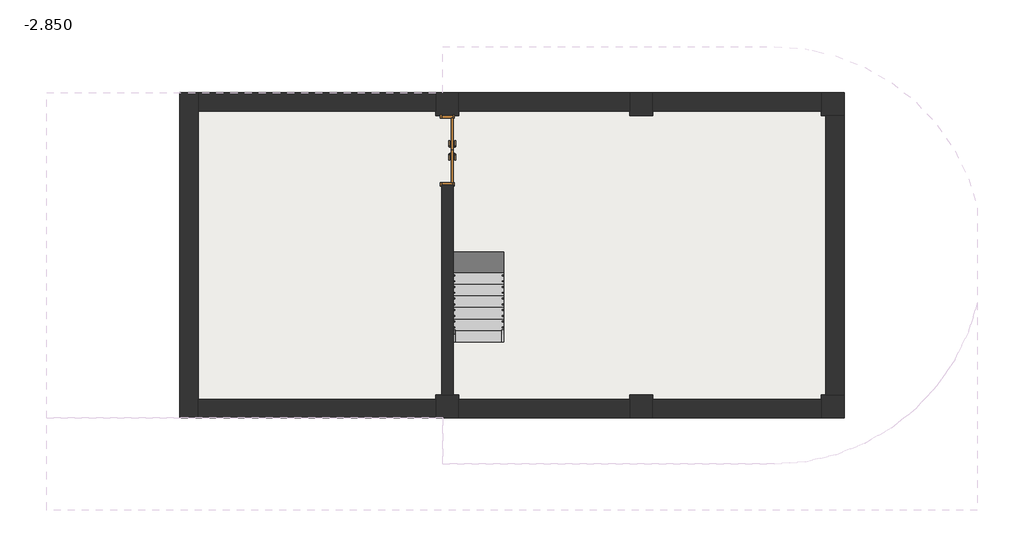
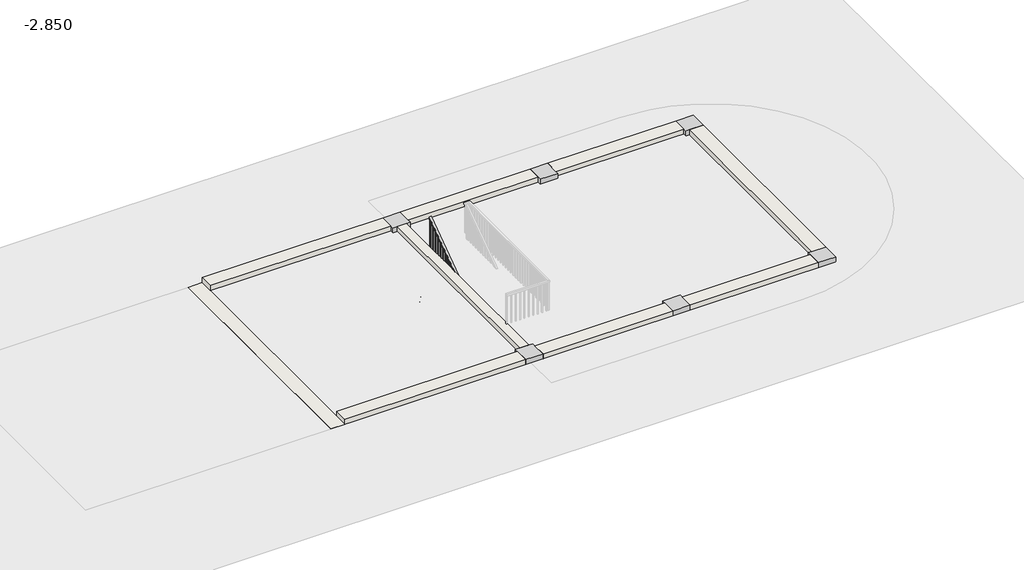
# One storey, part 1 of 2: 6 columns, 5 walls, 1 door, 1 railing, 1 slab, 1 stair flight.
"""IFC4 building model written with IfcOpenShell, lengths in millimetres."""

from ifc_helpers import new_model, si_unit, frame, origin, place, context, project, spatial, polyline, outline, extrude, faceted_brep, transform, mapped, element, save
from components import m1521_8034ee71

model = new_model("IFC4")

# Units and contexts
model_context = context("Model", 3, world=origin())
ifc_project = project(units=[si_unit("LENGTHUNIT", "METRE", prefix="MILLI")], contexts=[model_context])

# Site, building, storey
site = spatial("IfcSite", under=ifc_project)
building = spatial("IfcBuilding", under=site)
storey = spatial("IfcBuildingStorey", under=building, Name="-2.850", Elevation=-2850.0)

# Columns
placement = place(None, origin())
element("IfcColumn", 1, ObjectType="混凝土 - 正方形 - 柱 : 300 x 300mm", at=placement, inside=storey, context=model_context, shape_type="Brep", body=[
    faceted_brep([(-36175.7378629, -33580.7017086, -2850.0), (-36175.7378629, -33980.7017086, -2850.0), (-36175.7378629, -34080.7017086, -2850.0), (-36675.7378629, -34080.7017086, -2850.0), (-36675.7378629, -33980.7017086, -2850.0), (-36675.7378629, -33580.7017086, -2850.0), (-36175.7378629, -33580.7017086, 0.0), (-36175.7378629, -33980.7017086, 0.0), (-36175.7378629, -34080.7017086, 0.0), (-36300.7378629, -34080.7017086, 0.0), (-36550.7378629, -34080.7017086, 0.0), (-36675.7378629, -34080.7017086, 0.0), (-36675.7378629, -33980.7017086, 0.0), (-36675.7378629, -33580.7017086, 0.0)], [[[0, 1, 2, 3, 4, 5]], [[6, 7, 8, 2, 1, 0]], [[8, 9, 10, 11, 3, 2]], [[11, 12, 13, 5, 4, 3]], [[13, 6, 0, 5]], [[6, 13, 12, 11, 10, 9, 8, 7]]]),
])
element("IfcColumn", 2, ObjectType="混凝土 - 正方形 - 柱 : 300 x 300mm", at=placement, inside=storey, context=model_context, shape_type="Brep", body=[
    faceted_brep([(-36175.7378629, -40130.7017086, -2850.0), (-36175.7378629, -40230.7017086, -2850.0), (-36175.7378629, -40630.7017086, -2850.0), (-36675.7378629, -40630.7017086, -2850.0), (-36675.7378629, -40230.7017086, -2850.0), (-36675.7378629, -40130.7017086, -2850.0), (-36550.7378629, -40130.7017086, -2850.0), (-36300.7378629, -40130.7017086, -2850.0), (-36175.7378629, -40130.7017086, 0.0), (-36175.7378629, -40230.7017086, 0.0), (-36175.7378629, -40630.7017086, 0.0), (-36675.7378629, -40630.7017086, 0.0), (-36675.7378629, -40230.7017086, 0.0), (-36675.7378629, -40130.7017086, 0.0), (-36550.7378629, -40130.7017086, 0.0), (-36300.7378629, -40130.7017086, 0.0)], [[[0, 1, 2, 3, 4, 5, 6, 7]], [[8, 9, 10, 2, 1, 0]], [[10, 11, 3, 2]], [[11, 12, 13, 5, 4, 3]], [[13, 14, 15, 8, 0, 7, 6, 5]], [[8, 15, 14, 13, 12, 11, 10, 9]]]),
])
element("IfcColumn", 3, ObjectType="混凝土 - 正方形 - 柱 : 300 x 300mm", at=placement, inside=storey, context=model_context, shape_type="Brep", body=[
    faceted_brep([(-31975.7378629, -33580.7017086, -2850.0), (-31975.7378629, -33980.7017086, -2850.0), (-31975.7378629, -34080.7017086, -2850.0), (-32475.7378629, -34080.7017086, -2850.0), (-32475.7378629, -33980.7017086, -2850.0), (-32475.7378629, -33580.7017086, -2850.0), (-31975.7378629, -33580.7017086, 0.0), (-31975.7378629, -33980.7017086, 0.0), (-31975.7378629, -34080.7017086, 0.0), (-32475.7378629, -34080.7017086, 0.0), (-32475.7378629, -33980.7017086, 0.0), (-32475.7378629, -33580.7017086, 0.0)], [[[0, 1, 2, 3, 4, 5]], [[6, 7, 8, 2, 1, 0]], [[8, 9, 3, 2]], [[9, 10, 11, 5, 4, 3]], [[11, 6, 0, 5]], [[6, 11, 10, 9, 8, 7]]]),
])
element("IfcColumn", 4, ObjectType="混凝土 - 正方形 - 柱 : 300 x 300mm", at=placement, inside=storey, context=model_context, shape_type="Brep", body=[
    faceted_brep([(-31975.7378629, -40130.7017086, -2850.0), (-31975.7378629, -40230.7017086, -2850.0), (-31975.7378629, -40630.7017086, -2850.0), (-32475.7378629, -40630.7017086, -2850.0), (-32475.7378629, -40230.7017086, -2850.0), (-32475.7378629, -40130.7017086, -2850.0), (-31975.7378629, -40130.7017086, 0.0), (-31975.7378629, -40230.7017086, 0.0), (-31975.7378629, -40630.7017086, 0.0), (-32475.7378629, -40630.7017086, 0.0), (-32475.7378629, -40230.7017086, 0.0), (-32475.7378629, -40130.7017086, 0.0)], [[[0, 1, 2, 3, 4, 5]], [[6, 7, 8, 2, 1, 0]], [[8, 9, 3, 2]], [[9, 10, 11, 5, 4, 3]], [[11, 6, 0, 5]], [[6, 11, 10, 9, 8, 7]]]),
])
element("IfcColumn", 5, ObjectType="混凝土 - 正方形 - 柱 : 300 x 300mm", at=placement, inside=storey, context=model_context, shape_type="Brep", body=[
    faceted_brep([(-27825.7378629, -33580.7017086, -2850.0), (-27825.7378629, -34080.7017086, -2850.0), (-28225.7378629, -34080.7017086, -2850.0), (-28325.7378629, -34080.7017086, -2850.0), (-28325.7378629, -33980.7017086, -2850.0), (-28325.7378629, -33580.7017086, -2850.0), (-27825.7378629, -33580.7017086, 0.0), (-27825.7378629, -34080.7017086, 0.0), (-28225.7378629, -34080.7017086, 0.0), (-28325.7378629, -34080.7017086, 0.0), (-28325.7378629, -33980.7017086, 0.0), (-28325.7378629, -33580.7017086, 0.0)], [[[0, 1, 2, 3, 4, 5]], [[6, 7, 1, 0]], [[7, 8, 9, 3, 2, 1]], [[9, 10, 11, 5, 4, 3]], [[11, 6, 0, 5]], [[6, 11, 10, 9, 8, 7]]]),
])
element("IfcColumn", 6, ObjectType="混凝土 - 正方形 - 柱 : 300 x 300mm", at=placement, inside=storey, context=model_context, shape_type="Brep", body=[
    faceted_brep([(-27825.7378629, -40130.7017086, -2850.0), (-27825.7378629, -40630.7017086, -2850.0), (-28325.7378629, -40630.7017086, -2850.0), (-28325.7378629, -40230.7017086, -2850.0), (-28325.7378629, -40130.7017086, -2850.0), (-28225.7378629, -40130.7017086, -2850.0), (-27825.7378629, -40130.7017086, 0.0), (-27825.7378629, -40630.7017086, 0.0), (-28325.7378629, -40630.7017086, 0.0), (-28325.7378629, -40230.7017086, 0.0), (-28325.7378629, -40130.7017086, 0.0), (-28225.7378629, -40130.7017086, 0.0)], [[[0, 1, 2, 3, 4, 5]], [[6, 7, 1, 0]], [[7, 8, 2, 1]], [[8, 9, 10, 4, 3, 2]], [[10, 11, 6, 0, 5, 4]], [[6, 11, 10, 9, 8, 7]]]),
])

# Door
m1521_shape = m1521_8034ee71(model_context)
element("IfcDoor", 7, ObjectType="双面嵌板木门 1 : M1521", at=placement, inside=storey, context=model_context, shape_type="MappedRepresentation", body=[
    mapped(m1521_shape, transform((-36425.7378629, -34830.7017086, -2850.0), x_axis=(0.0, -1.0, 0.0), y_axis=(1.0, 0.0, 0.0), z_axis=(0.0, 0.0, 1.0))),
])

# Railing
element("IfcRailing", 8, ObjectType="900mm", at=placement, inside=storey, context=model_context, shape_type="SweptSolid", body=[
    extrude(outline(polyline([(-38980.7017086, -1833.2683272), (-38980.7017086, -1771.875), (-35230.7017086, 900.0), (-35230.7017086, 838.6066728), (-38980.7017086, -1833.2683272)])), frame((-36300.3378629, 0.0, 0.0), z_axis=(1.0, 0.0, 0.0), x_axis=(0.0, 1.0, 0.0)), (0.0, 0.0, 1.0), 50.0),
    extrude(outline(polyline([(-35303.2017086, 786.9504228), (-35283.2017086, 801.2004228), (-35283.2017086, -178.125), (-35303.2017086, -178.125), (-35303.2017086, 786.9504228)])), frame((-36285.3378629, 0.0, 0.0), z_axis=(1.0, 0.0, 0.0), x_axis=(0.0, 1.0, 0.0)), (0.0, 0.0, 1.0), 20.0),
    extrude(outline(polyline([(-35428.2017086, 697.8879228), (-35408.2017086, 712.1379228), (-35408.2017086, -178.125), (-35428.2017086, -178.125), (-35428.2017086, 697.8879228)])), frame((-36285.3378629, 0.0, 0.0), z_axis=(1.0, 0.0, 0.0), x_axis=(0.0, 1.0, 0.0)), (0.0, 0.0, 1.0), 20.0),
    extrude(outline(polyline([(-35553.2017086, 608.8254228), (-35533.2017086, 623.0754228), (-35533.2017086, -356.25), (-35553.2017086, -356.25), (-35553.2017086, 608.8254228)])), frame((-36285.3378629, 0.0, 0.0), z_axis=(1.0, 0.0, 0.0), x_axis=(0.0, 1.0, 0.0)), (0.0, 0.0, 1.0), 20.0),
    extrude(outline(polyline([(-35678.2017086, 519.7629228), (-35658.2017086, 534.0129228), (-35658.2017086, -356.25), (-35678.2017086, -356.25), (-35678.2017086, 519.7629228)])), frame((-36285.3378629, 0.0, 0.0), z_axis=(1.0, 0.0, 0.0), x_axis=(0.0, 1.0, 0.0)), (0.0, 0.0, 1.0), 20.0),
    extrude(outline(polyline([(-35803.2017086, 430.7004228), (-35783.2017086, 444.9504228), (-35783.2017086, -534.375), (-35803.2017086, -534.375), (-35803.2017086, 430.7004228)])), frame((-36285.3378629, 0.0, 0.0), z_axis=(1.0, 0.0, 0.0), x_axis=(0.0, 1.0, 0.0)), (0.0, 0.0, 1.0), 20.0),
    extrude(outline(polyline([(-35928.2017086, 341.6379228), (-35908.2017086, 355.8879228), (-35908.2017086, -534.375), (-35928.2017086, -534.375), (-35928.2017086, 341.6379228)])), frame((-36285.3378629, 0.0, 0.0), z_axis=(1.0, 0.0, 0.0), x_axis=(0.0, 1.0, 0.0)), (0.0, 0.0, 1.0), 20.0),
    extrude(outline(polyline([(-36053.2017086, 252.5754228), (-36033.2017086, 266.8254228), (-36033.2017086, -712.5), (-36053.2017086, -712.5), (-36053.2017086, 252.5754228)])), frame((-36285.3378629, 0.0, 0.0), z_axis=(1.0, 0.0, 0.0), x_axis=(0.0, 1.0, 0.0)), (0.0, 0.0, 1.0), 20.0),
    extrude(outline(polyline([(-36178.2017086, 163.5129228), (-36158.2017086, 177.7629228), (-36158.2017086, -712.5), (-36178.2017086, -712.5), (-36178.2017086, 163.5129228)])), frame((-36285.3378629, 0.0, 0.0), z_axis=(1.0, 0.0, 0.0), x_axis=(0.0, 1.0, 0.0)), (0.0, 0.0, 1.0), 20.0),
    extrude(outline(polyline([(-36303.2017086, 74.4504228), (-36283.2017086, 88.7004228), (-36283.2017086, -890.625), (-36303.2017086, -890.625), (-36303.2017086, 74.4504228)])), frame((-36285.3378629, 0.0, 0.0), z_axis=(1.0, 0.0, 0.0), x_axis=(0.0, 1.0, 0.0)), (0.0, 0.0, 1.0), 20.0),
    extrude(outline(polyline([(-36428.2017086, -14.6120772), (-36408.2017086, -0.3620772), (-36408.2017086, -890.625), (-36428.2017086, -890.625), (-36428.2017086, -14.6120772)])), frame((-36285.3378629, 0.0, 0.0), z_axis=(1.0, 0.0, 0.0), x_axis=(0.0, 1.0, 0.0)), (0.0, 0.0, 1.0), 20.0),
    extrude(outline(polyline([(-36553.2017086, -103.6745772), (-36533.2017086, -89.4245772), (-36533.2017086, -1068.75), (-36553.2017086, -1068.75), (-36553.2017086, -103.6745772)])), frame((-36285.3378629, 0.0, 0.0), z_axis=(1.0, 0.0, 0.0), x_axis=(0.0, 1.0, 0.0)), (0.0, 0.0, 1.0), 20.0),
    extrude(outline(polyline([(-36678.2017086, -192.7370772), (-36658.2017086, -178.4870772), (-36658.2017086, -1068.75), (-36678.2017086, -1068.75), (-36678.2017086, -192.7370772)])), frame((-36285.3378629, 0.0, 0.0), z_axis=(1.0, 0.0, 0.0), x_axis=(0.0, 1.0, 0.0)), (0.0, 0.0, 1.0), 20.0),
    extrude(outline(polyline([(-36803.2017086, -281.7995772), (-36783.2017086, -267.5495772), (-36783.2017086, -1246.875), (-36803.2017086, -1246.875), (-36803.2017086, -281.7995772)])), frame((-36285.3378629, 0.0, 0.0), z_axis=(1.0, 0.0, 0.0), x_axis=(0.0, 1.0, 0.0)), (0.0, 0.0, 1.0), 20.0),
    extrude(outline(polyline([(-36928.2017086, -370.8620772), (-36908.2017086, -356.6120772), (-36908.2017086, -1246.875), (-36928.2017086, -1246.875), (-36928.2017086, -370.8620772)])), frame((-36285.3378629, 0.0, 0.0), z_axis=(1.0, 0.0, 0.0), x_axis=(0.0, 1.0, 0.0)), (0.0, 0.0, 1.0), 20.0),
    extrude(outline(polyline([(-37053.2017086, -459.9245772), (-37033.2017086, -445.6745772), (-37033.2017086, -1425.0), (-37053.2017086, -1425.0), (-37053.2017086, -459.9245772)])), frame((-36285.3378629, 0.0, 0.0), z_axis=(1.0, 0.0, 0.0), x_axis=(0.0, 1.0, 0.0)), (0.0, 0.0, 1.0), 20.0),
    extrude(outline(polyline([(-37178.2017086, -548.9870772), (-37158.2017086, -534.7370772), (-37158.2017086, -1425.0), (-37178.2017086, -1425.0), (-37178.2017086, -548.9870772)])), frame((-36285.3378629, 0.0, 0.0), z_axis=(1.0, 0.0, 0.0), x_axis=(0.0, 1.0, 0.0)), (0.0, 0.0, 1.0), 20.0),
    extrude(outline(polyline([(-37303.2017086, -638.0495772), (-37283.2017086, -623.7995772), (-37283.2017086, -1603.125), (-37303.2017086, -1603.125), (-37303.2017086, -638.0495772)])), frame((-36285.3378629, 0.0, 0.0), z_axis=(1.0, 0.0, 0.0), x_axis=(0.0, 1.0, 0.0)), (0.0, 0.0, 1.0), 20.0),
    extrude(outline(polyline([(-37428.2017086, -727.1120772), (-37408.2017086, -712.8620772), (-37408.2017086, -1603.125), (-37428.2017086, -1603.125), (-37428.2017086, -727.1120772)])), frame((-36285.3378629, 0.0, 0.0), z_axis=(1.0, 0.0, 0.0), x_axis=(0.0, 1.0, 0.0)), (0.0, 0.0, 1.0), 20.0),
    extrude(outline(polyline([(-37553.2017086, -816.1745772), (-37533.2017086, -801.9245772), (-37533.2017086, -1781.25), (-37553.2017086, -1781.25), (-37553.2017086, -816.1745772)])), frame((-36285.3378629, 0.0, 0.0), z_axis=(1.0, 0.0, 0.0), x_axis=(0.0, 1.0, 0.0)), (0.0, 0.0, 1.0), 20.0),
    extrude(outline(polyline([(-37678.2017086, -905.2370772), (-37658.2017086, -890.9870772), (-37658.2017086, -1781.25), (-37678.2017086, -1781.25), (-37678.2017086, -905.2370772)])), frame((-36285.3378629, 0.0, 0.0), z_axis=(1.0, 0.0, 0.0), x_axis=(0.0, 1.0, 0.0)), (0.0, 0.0, 1.0), 20.0),
    extrude(outline(polyline([(-37803.2017086, -994.2995772), (-37783.2017086, -980.0495772), (-37783.2017086, -1959.375), (-37803.2017086, -1959.375), (-37803.2017086, -994.2995772)])), frame((-36285.3378629, 0.0, 0.0), z_axis=(1.0, 0.0, 0.0), x_axis=(0.0, 1.0, 0.0)), (0.0, 0.0, 1.0), 20.0),
    extrude(outline(polyline([(-37928.2017086, -1083.3620772), (-37908.2017086, -1069.1120772), (-37908.2017086, -1959.375), (-37928.2017086, -1959.375), (-37928.2017086, -1083.3620772)])), frame((-36285.3378629, 0.0, 0.0), z_axis=(1.0, 0.0, 0.0), x_axis=(0.0, 1.0, 0.0)), (0.0, 0.0, 1.0), 20.0),
    extrude(outline(polyline([(-38053.2017086, -1172.4245772), (-38033.2017086, -1158.1745772), (-38033.2017086, -2137.5), (-38053.2017086, -2137.5), (-38053.2017086, -1172.4245772)])), frame((-36285.3378629, 0.0, 0.0), z_axis=(1.0, 0.0, 0.0), x_axis=(0.0, 1.0, 0.0)), (0.0, 0.0, 1.0), 20.0),
    extrude(outline(polyline([(-38178.2017086, -1261.4870772), (-38158.2017086, -1247.2370772), (-38158.2017086, -2137.5), (-38178.2017086, -2137.5), (-38178.2017086, -1261.4870772)])), frame((-36285.3378629, 0.0, 0.0), z_axis=(1.0, 0.0, 0.0), x_axis=(0.0, 1.0, 0.0)), (0.0, 0.0, 1.0), 20.0),
    extrude(outline(polyline([(-38303.2017086, -1350.5495772), (-38283.2017086, -1336.2995772), (-38283.2017086, -2315.625), (-38303.2017086, -2315.625), (-38303.2017086, -1350.5495772)])), frame((-36285.3378629, 0.0, 0.0), z_axis=(1.0, 0.0, 0.0), x_axis=(0.0, 1.0, 0.0)), (0.0, 0.0, 1.0), 20.0),
    extrude(outline(polyline([(-38428.2017086, -1439.6120772), (-38408.2017086, -1425.3620772), (-38408.2017086, -2315.625), (-38428.2017086, -2315.625), (-38428.2017086, -1439.6120772)])), frame((-36285.3378629, 0.0, 0.0), z_axis=(1.0, 0.0, 0.0), x_axis=(0.0, 1.0, 0.0)), (0.0, 0.0, 1.0), 20.0),
    extrude(outline(polyline([(-38553.2017086, -1528.6745772), (-38533.2017086, -1514.4245772), (-38533.2017086, -2493.75), (-38553.2017086, -2493.75), (-38553.2017086, -1528.6745772)])), frame((-36285.3378629, 0.0, 0.0), z_axis=(1.0, 0.0, 0.0), x_axis=(0.0, 1.0, 0.0)), (0.0, 0.0, 1.0), 20.0),
    extrude(outline(polyline([(-38678.2017086, -1617.7370772), (-38658.2017086, -1603.4870772), (-38658.2017086, -2493.75), (-38678.2017086, -2493.75), (-38678.2017086, -1617.7370772)])), frame((-36285.3378629, 0.0, 0.0), z_axis=(1.0, 0.0, 0.0), x_axis=(0.0, 1.0, 0.0)), (0.0, 0.0, 1.0), 20.0),
    extrude(outline(polyline([(-38803.2017086, -1706.7995772), (-38783.2017086, -1692.5495772), (-38783.2017086, -2671.875), (-38803.2017086, -2671.875), (-38803.2017086, -1706.7995772)])), frame((-36285.3378629, 0.0, 0.0), z_axis=(1.0, 0.0, 0.0), x_axis=(0.0, 1.0, 0.0)), (0.0, 0.0, 1.0), 20.0),
    extrude(outline(polyline([(-38928.2017086, -1795.8620772), (-38908.2017086, -1781.6120772), (-38908.2017086, -2671.875), (-38928.2017086, -2671.875), (-38928.2017086, -1795.8620772)])), frame((-36285.3378629, 0.0, 0.0), z_axis=(1.0, 0.0, 0.0), x_axis=(0.0, 1.0, 0.0)), (0.0, 0.0, 1.0), 20.0),
    extrude(outline(polyline([(-35250.7017086, 824.3566728), (-35230.7017086, 838.6066728), (-35230.7017086, -178.125), (-35250.7017086, -178.125), (-35250.7017086, 824.3566728)])), frame((-36285.3378629, 0.0, 0.0), z_axis=(1.0, 0.0, 0.0), x_axis=(0.0, 1.0, 0.0)), (0.0, 0.0, 1.0), 20.0),
    extrude(outline(polyline([(-38980.7017086, -1833.2683272), (-38960.7017086, -1819.0183272), (-38960.7017086, -2671.875), (-38980.7017086, -2671.875), (-38980.7017086, -1833.2683272)])), frame((-36285.3378629, 0.0, 0.0), z_axis=(1.0, 0.0, 0.0), x_axis=(0.0, 1.0, 0.0)), (0.0, 0.0, 1.0), 20.0),
])

# Slab
element("IfcSlab", 9, ObjectType="常规 - 150mm", at=placement, inside=storey, context=model_context, shape_type="SweptSolid", body=[
    extrude(outline(polyline([(-27825.7378629, -33580.7017086), (-27825.7378629, -40630.7017086), (-42225.7378629, -40630.7017086), (-42225.7378629, -33580.7017086), (-27825.7378629, -33580.7017086)])), frame((0.0, 0.0, -3000.0), z_axis=(0.0, 0.0, 1.0), x_axis=(1.0, 0.0, 0.0)), (0.0, 0.0, 1.0), 150.0),
])

# Stair flight
element("IfcStairFlight", 10, ObjectType="150mm 结构深度", at=placement, inside=storey, context=model_context, shape_type="Brep", body=[
    faceted_brep([(-36300.7378629, -38730.7017086, -2671.875), (-36300.7378629, -38980.7017086, -2671.875), (-35200.7378629, -38980.7017086, -2671.875), (-35200.7378629, -38730.7017086, -2671.875), (-36300.7378629, -38730.7017086, -2850.0), (-36300.7378629, -38980.7017086, -2850.0), (-35200.7378629, -38980.7017086, -2850.0), (-35200.7378629, -38730.7017086, -2850.0), (-36300.7378629, -38480.7017086, -2493.75), (-36300.7378629, -38730.7017086, -2493.75), (-35200.7378629, -38730.7017086, -2493.75), (-35200.7378629, -38480.7017086, -2493.75), (-36300.7378629, -38480.7017086, -2677.9299816), (-36300.7378629, -38722.2034888, -2850.0), (-35200.7378629, -38722.2034888, -2850.0), (-35200.7378629, -38480.7017086, -2677.9299816), (-36300.7378629, -38230.7017086, -2315.625), (-36300.7378629, -38480.7017086, -2315.625), (-35200.7378629, -38480.7017086, -2315.625), (-35200.7378629, -38230.7017086, -2315.625), (-36300.7378629, -38230.7017086, -2499.8049816), (-35200.7378629, -38230.7017086, -2499.8049816), (-36300.7378629, -37980.7017086, -2137.5), (-36300.7378629, -38230.7017086, -2137.5), (-35200.7378629, -38230.7017086, -2137.5), (-35200.7378629, -37980.7017086, -2137.5), (-36300.7378629, -37980.7017086, -2321.6799816), (-35200.7378629, -37980.7017086, -2321.6799816), (-36300.7378629, -37730.7017086, -1959.375), (-36300.7378629, -37980.7017086, -1959.375), (-35200.7378629, -37980.7017086, -1959.375), (-35200.7378629, -37730.7017086, -1959.375), (-36300.7378629, -37730.7017086, -2143.5549816), (-35200.7378629, -37730.7017086, -2143.5549816), (-36300.7378629, -37480.7017086, -1781.25), (-36300.7378629, -37730.7017086, -1781.25), (-35200.7378629, -37730.7017086, -1781.25), (-35200.7378629, -37480.7017086, -1781.25), (-36300.7378629, -37480.7017086, -1965.4299816), (-35200.7378629, -37480.7017086, -1965.4299816), (-36300.7378629, -37230.7017086, -1603.125), (-36300.7378629, -37480.7017086, -1603.125), (-35200.7378629, -37480.7017086, -1603.125), (-35200.7378629, -37230.7017086, -1603.125), (-36300.7378629, -37230.7017086, -1787.3049816), (-35200.7378629, -37230.7017086, -1787.3049816), (-36300.7378629, -36980.7017086, -1425.0), (-36300.7378629, -37230.7017086, -1425.0), (-35200.7378629, -37230.7017086, -1425.0), (-35200.7378629, -36980.7017086, -1425.0), (-36300.7378629, -36980.7017086, -1609.1799816), (-35200.7378629, -36980.7017086, -1609.1799816), (-36300.7378629, -36730.7017086, -1246.875), (-36300.7378629, -36980.7017086, -1246.875), (-35200.7378629, -36980.7017086, -1246.875), (-35200.7378629, -36730.7017086, -1246.875), (-36300.7378629, -36730.7017086, -1431.0549816), (-35200.7378629, -36730.7017086, -1431.0549816), (-36300.7378629, -36480.7017086, -1068.75), (-36300.7378629, -36730.7017086, -1068.75), (-35200.7378629, -36730.7017086, -1068.75), (-35200.7378629, -36480.7017086, -1068.75), (-36300.7378629, -36480.7017086, -1252.9299816), (-35200.7378629, -36480.7017086, -1252.9299816), (-36300.7378629, -36230.7017086, -890.625), (-36300.7378629, -36480.7017086, -890.625), (-35200.7378629, -36480.7017086, -890.625), (-35200.7378629, -36230.7017086, -890.625), (-36300.7378629, -36230.7017086, -1074.8049816), (-35200.7378629, -36230.7017086, -1074.8049816), (-36300.7378629, -35980.7017086, -712.5), (-36300.7378629, -36230.7017086, -712.5), (-35200.7378629, -36230.7017086, -712.5), (-35200.7378629, -35980.7017086, -712.5), (-36300.7378629, -35980.7017086, -896.6799816), (-35200.7378629, -35980.7017086, -896.6799816), (-36300.7378629, -35730.7017086, -534.375), (-36300.7378629, -35980.7017086, -534.375), (-35200.7378629, -35980.7017086, -534.375), (-35200.7378629, -35730.7017086, -534.375), (-36300.7378629, -35730.7017086, -718.5549816), (-35200.7378629, -35730.7017086, -718.5549816), (-36300.7378629, -35480.7017086, -356.25), (-36300.7378629, -35730.7017086, -356.25), (-35200.7378629, -35730.7017086, -356.25), (-35200.7378629, -35480.7017086, -356.25), (-36300.7378629, -35480.7017086, -540.4299816), (-35200.7378629, -35480.7017086, -540.4299816), (-36300.7378629, -35230.7017086, -178.125), (-36300.7378629, -35480.7017086, -178.125), (-35200.7378629, -35480.7017086, -178.125), (-35200.7378629, -35230.7017086, -178.125), (-36300.7378629, -35230.7017086, -362.3049816), (-35200.7378629, -35230.7017086, -362.3049816)], [[[0, 1, 2, 3]], [[1, 0, 4, 5]], [[2, 1, 5, 6]], [[3, 2, 6, 7]], [[8, 9, 10, 11]], [[4, 0, 9, 8, 12, 13]], [[0, 3, 10, 9]], [[3, 7, 14, 15, 11, 10]], [[16, 17, 18, 19]], [[17, 16, 20, 12, 8]], [[8, 11, 18, 17]], [[19, 18, 11, 15, 21]], [[22, 23, 24, 25]], [[23, 22, 26, 20, 16]], [[16, 19, 24, 23]], [[25, 24, 19, 21, 27]], [[28, 29, 30, 31]], [[29, 28, 32, 26, 22]], [[22, 25, 30, 29]], [[31, 30, 25, 27, 33]], [[34, 35, 36, 37]], [[35, 34, 38, 32, 28]], [[28, 31, 36, 35]], [[37, 36, 31, 33, 39]], [[40, 41, 42, 43]], [[41, 40, 44, 38, 34]], [[34, 37, 42, 41]], [[43, 42, 37, 39, 45]], [[46, 47, 48, 49]], [[47, 46, 50, 44, 40]], [[40, 43, 48, 47]], [[49, 48, 43, 45, 51]], [[52, 53, 54, 55]], [[53, 52, 56, 50, 46]], [[46, 49, 54, 53]], [[55, 54, 49, 51, 57]], [[58, 59, 60, 61]], [[59, 58, 62, 56, 52]], [[52, 55, 60, 59]], [[61, 60, 55, 57, 63]], [[64, 65, 66, 67]], [[65, 64, 68, 62, 58]], [[58, 61, 66, 65]], [[67, 66, 61, 63, 69]], [[70, 71, 72, 73]], [[71, 70, 74, 68, 64]], [[64, 67, 72, 71]], [[73, 72, 67, 69, 75]], [[76, 77, 78, 79]], [[77, 76, 80, 74, 70]], [[70, 73, 78, 77]], [[79, 78, 73, 75, 81]], [[82, 83, 84, 85]], [[83, 82, 86, 80, 76]], [[76, 79, 84, 83]], [[85, 84, 79, 81, 87]], [[88, 89, 90, 91]], [[89, 88, 92, 86, 82]], [[82, 85, 90, 89]], [[91, 90, 85, 87, 93]], [[88, 91, 93, 92]], [[5, 4, 13, 14, 7, 6]], [[14, 13, 12, 20, 26, 32, 38, 44, 50, 56, 62, 68, 74, 80, 86, 92, 93, 87, 81, 75, 69, 63, 57, 51, 45, 39, 33, 27, 21, 15]]]),
])

# Walls
element("IfcWall", 11, ObjectType="地下室外墙", at=placement, inside=storey, context=model_context, shape_type="Brep", body=[
    faceted_brep([(-41825.7378629, -40630.7017086, -2850.0), (-41825.7378629, -40230.7017086, -2850.0), (-41825.7378629, -33980.7017086, -2850.0), (-41825.7378629, -33580.7017086, -2850.0), (-41825.7378629, -33580.7017086, -150.0), (-41825.7378629, -40630.7017086, -150.0), (-42225.7378629, -33580.7017086, -2850.0), (-42225.7378629, -40630.7017086, -2850.0), (-42225.7378629, -40630.7017086, -150.0), (-42225.7378629, -33580.7017086, -150.0)], [[[0, 1, 2, 3, 4, 5]], [[6, 7, 8, 9]], [[3, 2, 1, 0, 7, 6]], [[3, 6, 9, 4]], [[7, 0, 5, 8]], [[5, 4, 9, 8]]]),
])
element("IfcWall", 12, ObjectType="地下室外墙", at=placement, inside=storey, context=model_context, shape_type="SweptSolid", body=[
    extrude(outline(polyline([(-41825.7378629, -33980.7017086), (-41825.7378629, -33580.7017086), (-36675.7378629, -33580.7017086), (-36675.7378629, -33980.7017086), (-41825.7378629, -33980.7017086)])), frame((0.0, 0.0, -2850.0), z_axis=(0.0, 0.0, 1.0), x_axis=(1.0, 0.0, 0.0)), (0.0, 0.0, 1.0), 2850.0),
    extrude(outline(polyline([(-28325.7378629, -33580.7017086), (-28325.7378629, -33980.7017086), (-31975.7378629, -33980.7017086), (-31975.7378629, -33580.7017086), (-28325.7378629, -33580.7017086)])), frame((0.0, 0.0, -2850.0), z_axis=(0.0, 0.0, 1.0), x_axis=(1.0, 0.0, 0.0)), (0.0, 0.0, 1.0), 2850.0),
    extrude(outline(polyline([(-32475.7378629, -33580.7017086), (-32475.7378629, -33980.7017086), (-36175.7378629, -33980.7017086), (-36175.7378629, -33580.7017086), (-32475.7378629, -33580.7017086)])), frame((0.0, 0.0, -2850.0), z_axis=(0.0, 0.0, 1.0), x_axis=(1.0, 0.0, 0.0)), (0.0, 0.0, 1.0), 2850.0),
])
element("IfcWall", 13, ObjectType="地下室外墙", at=placement, inside=storey, context=model_context, shape_type="SweptSolid", body=[
    extrude(outline(polyline([(-27825.7378629, -40130.7017086), (-28225.7378629, -40130.7017086), (-28225.7378629, -34080.7017086), (-27825.7378629, -34080.7017086), (-27825.7378629, -40130.7017086)])), frame((0.0, 0.0, -2850.0), z_axis=(0.0, 0.0, 1.0), x_axis=(1.0, 0.0, 0.0)), (0.0, 0.0, 1.0), 2850.0),
])
element("IfcWall", 14, ObjectType="地下室外墙", at=placement, inside=storey, context=model_context, shape_type="SweptSolid", body=[
    extrude(outline(polyline([(-41825.7378629, -40630.7017086), (-41825.7378629, -40230.7017086), (-36675.7378629, -40230.7017086), (-36675.7378629, -40630.7017086), (-41825.7378629, -40630.7017086)])), frame((0.0, 0.0, -2850.0), z_axis=(0.0, 0.0, 1.0), x_axis=(1.0, 0.0, 0.0)), (0.0, 0.0, 1.0), 2850.0),
    extrude(outline(polyline([(-36175.7378629, -40630.7017086), (-36175.7378629, -40230.7017086), (-32475.7378629, -40230.7017086), (-32475.7378629, -40630.7017086), (-36175.7378629, -40630.7017086)])), frame((0.0, 0.0, -2850.0), z_axis=(0.0, 0.0, 1.0), x_axis=(1.0, 0.0, 0.0)), (0.0, 0.0, 1.0), 2850.0),
    extrude(outline(polyline([(-31975.7378629, -40630.7017086), (-31975.7378629, -40230.7017086), (-28325.7378629, -40230.7017086), (-28325.7378629, -40630.7017086), (-31975.7378629, -40630.7017086)])), frame((0.0, 0.0, -2850.0), z_axis=(0.0, 0.0, 1.0), x_axis=(1.0, 0.0, 0.0)), (0.0, 0.0, 1.0), 2850.0),
])
element("IfcWall", 15, ObjectType="地下室内墙", at=placement, inside=storey, context=model_context, shape_type="SweptSolid", body=[
    extrude(outline(polyline([(-40130.7017086, -2850.0), (-40130.7017086, 0.0), (-34080.7017086, 0.0), (-34080.7017086, -750.0), (-35580.7017086, -750.0), (-35580.7017086, -2850.0), (-40130.7017086, -2850.0)])), frame((-36550.7378629, 0.0, 0.0), z_axis=(1.0, 0.0, 0.0), x_axis=(0.0, 1.0, 0.0)), (0.0, 0.0, 1.0), 250.0),
])

save(model, "model.ifc")
